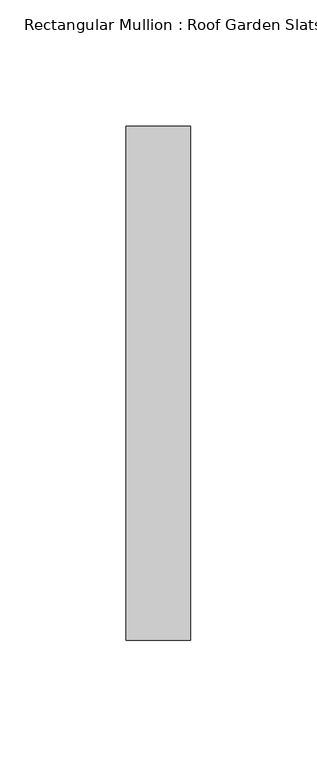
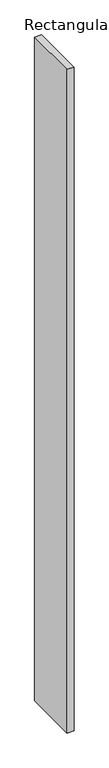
"""IFC4 building model written with IfcOpenShell, lengths in millimetres: member geometry, Rectangular Mullion : Roof Garden Slats."""

from ifc_helpers import new_model, si_unit, frame, origin, place, context, project, spatial, polyline, outline, extrude, source, transform, mapped, element, save


def rectangular_mullion_roof_garden_slats_1be4327f(model_context):
    return source(origin(), model_context, "Body", "SweptSolid", [
        extrude(outline(polyline([(12.7, 139.7), (12.7, -63.5), (-12.7, -63.5), (-12.7, 139.7), (12.7, 139.7)])), frame((0.0, 0.0, -2536.8087487), z_axis=(0.0, 0.0, 1.0), x_axis=(1.0, 0.0, 0.0)), (0.0, 0.0, 1.0), 2536.8087487),
    ])


if __name__ == "__main__":
    model = new_model("IFC4")
    model_context = context("Model", 3, world=origin())
    ifc_project = project(units=[si_unit("LENGTHUNIT", "METRE", prefix="MILLI")], contexts=[model_context])
    site = spatial("IfcSite", under=ifc_project)
    building = spatial("IfcBuilding", under=site)
    placement = place(None, origin())
    rectangular_mullion_roof_garden_slats_shape = rectangular_mullion_roof_garden_slats_1be4327f(model_context)
    element("IfcMember", 1, ObjectType="Rectangular Mullion : Roof Garden Slats", at=placement, inside=building, context=model_context, shape_type="MappedRepresentation", body=[
        mapped(rectangular_mullion_roof_garden_slats_shape, transform((0.0, 0.0, 0.0), x_axis=(1.0, 0.0, 0.0), y_axis=(0.0, 1.0, 0.0), z_axis=(0.0, 0.0, 1.0))),
    ])
    save(model, "model.ifc")
